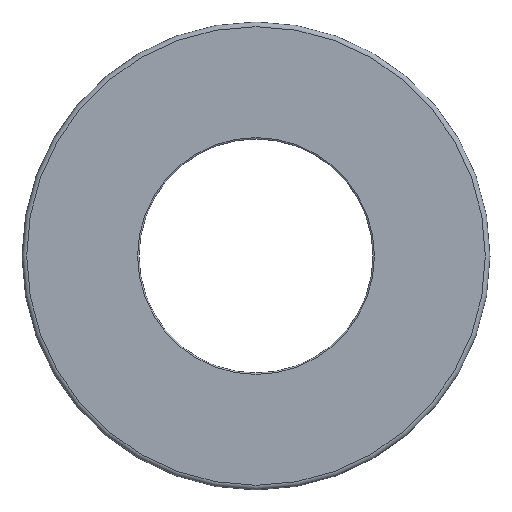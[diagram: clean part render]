
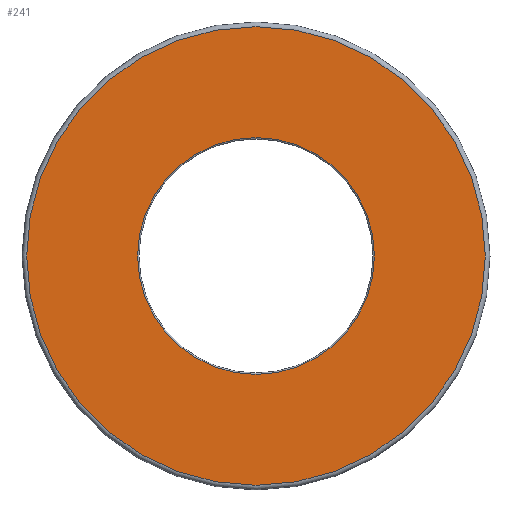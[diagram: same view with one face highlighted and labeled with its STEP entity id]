
A CAD part, left-side view. The second image highlights one B-rep face of the part: STEP entity #241.
In plain terms, the highlighted planar face has unit normal (-1, 0, 0).
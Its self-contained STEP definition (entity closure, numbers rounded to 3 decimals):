
#20=FACE_BOUND('',#67,.T.);
#24=PLANE('',#292);
#49=FACE_OUTER_BOUND('',#66,.T.);
#66=EDGE_LOOP('',(#186));
#67=EDGE_LOOP('',(#187));
#89=CIRCLE('',#288,14.7);
#92=CIRCLE('',#293,7.588);
#114=VERTEX_POINT('',#434);
#117=VERTEX_POINT('',#444);
#139=EDGE_CURVE('',#114,#114,#89,.T.);
#143=EDGE_CURVE('',#117,#117,#92,.T.);
#186=ORIENTED_EDGE('',*,*,#139,.F.);
#187=ORIENTED_EDGE('',*,*,#143,.T.);
#241=ADVANCED_FACE('',(#49,#20),#24,.T.);
#288=AXIS2_PLACEMENT_3D('',#436,#347,#348);
#292=AXIS2_PLACEMENT_3D('',#443,#356,#357);
#293=AXIS2_PLACEMENT_3D('',#445,#358,#359);
#347=DIRECTION('center_axis',(1.,0.,0.));
#348=DIRECTION('ref_axis',(0.,-1.,0.));
#356=DIRECTION('center_axis',(-1.,0.,0.));
#357=DIRECTION('ref_axis',(0.,0.,1.));
#358=DIRECTION('center_axis',(1.,0.,0.));
#359=DIRECTION('ref_axis',(0.,1.,0.));
#434=CARTESIAN_POINT('',(0.,0.,14.7));
#436=CARTESIAN_POINT('Origin',(0.,0.,
0.));
#443=CARTESIAN_POINT('Origin',(0.,11.294,0.));
#444=CARTESIAN_POINT('',(0.,0.,7.588));
#445=CARTESIAN_POINT('Origin',(0.,0.,
0.));
